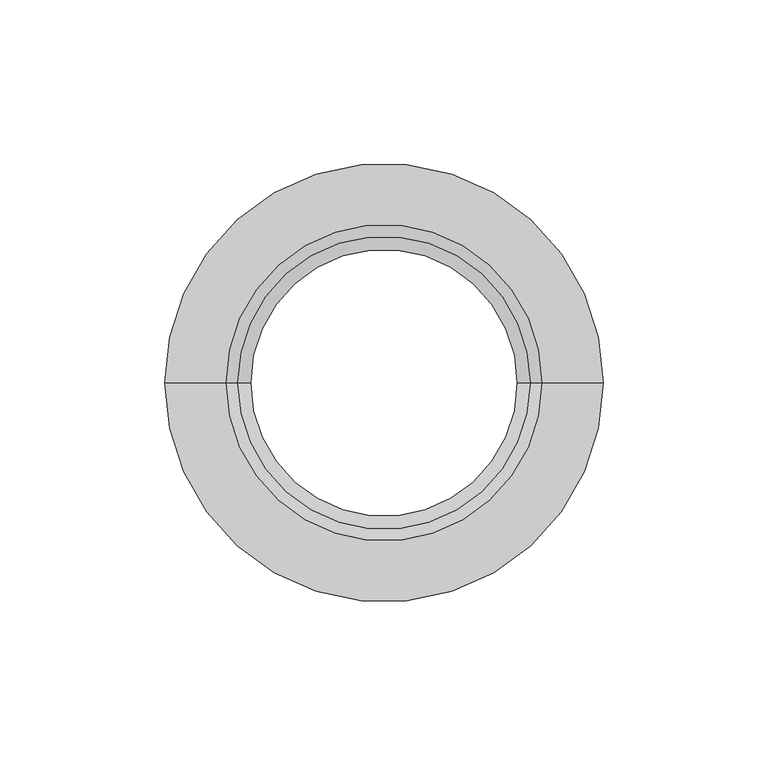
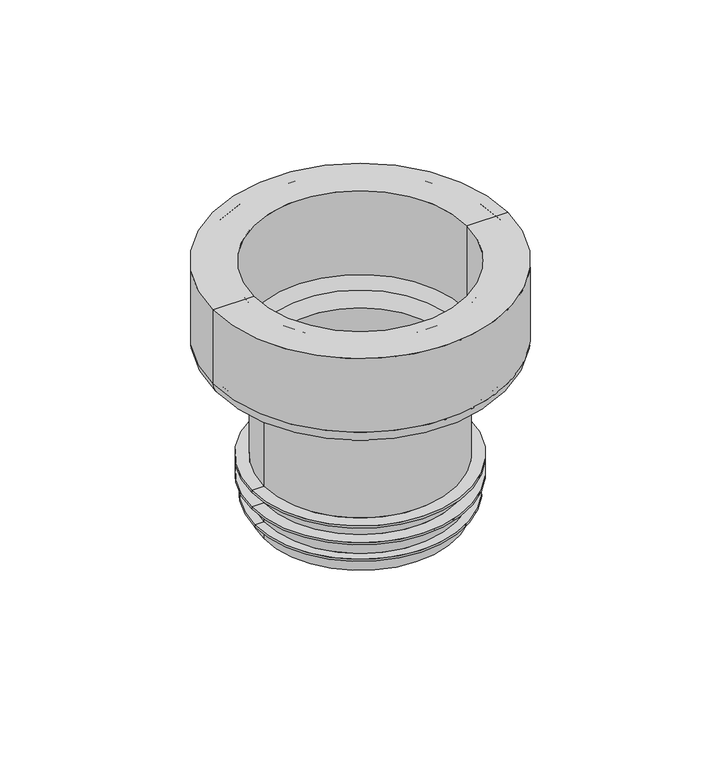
"""IFC4 building model written with IfcOpenShell, lengths in millimetres: sanitary terminal geometry, RSen_52_PIF_UN_closet connector no.3a w_wisa : closet connector_wisa_no 3a w white."""

from ifc_helpers import new_model, si_unit, point, frame, origin, origin_with_axes, place, context, project, spatial, polyline, circle_curve, ellipse_curve, trimmed, source, transform, mapped, element, save
from ifc_brep_helpers import plane_surface, cylinder_surface, revolved_surface, advanced_brep


def sanitary_terminal_4ff47196(model_context):
    return source(origin(), model_context, "Body", "AdvancedBrep", [
        advanced_brep(
        [(-47.5, 0.0, -110.0), (47.5, 0.0, -110.0), (43.5, 0.0, -110.0), (-43.5, 0.0, -110.0), (-47.5, 0.0, -109.0), (47.5, 0.0, -109.0), (-43.5, 0.0, -109.0), (43.5, 0.0, -109.0), (-43.5, 0.0, -101.0), (43.5, 0.0, -101.0), (-49.0, 0.0, -101.0), (49.0, 0.0, -101.0), (-49.0, 0.0, -100.0363869), (49.0, 0.0, -100.0363869), (-43.5, 0.0, -100.0363869), (43.5, 0.0, -100.0363869), (-43.5, 0.0, -93.0363869), (43.5, 0.0, -93.0363869), (-49.0, 0.0, -93.0363869), (49.0, 0.0, -93.0363869), (-49.0, 0.0, -92.0409026), (49.0, 0.0, -92.0409026), (-43.5, 0.0, -92.0409026), (43.5, 0.0, -92.0409026), (-43.5, 0.0, -51.3008302), (43.5, 0.0, -51.3008302), (-46.1319194, 0.0, -47.5420597), (46.1319194, 0.0, -47.5420597), (-61.894141, 0.0, -41.8050802), (61.894141, 0.0, -41.8050802), (-66.5, 0.0, -35.2272318), (66.5, 0.0, -35.2272318), (-66.5, 0.0, 0.0), (66.5, 0.0, 0.0), (-48.0, 0.0, 0.0), (48.0, 0.0, 0.0), (-48.0, 0.0, -40.0), (48.0, 0.0, -40.0), (-50.0, 0.0, -40.0), (50.0, 0.0, -40.0), (-50.0, 0.0, -3.5), (50.0, 0.0, -3.5), (-51.5, 0.0, -2.0), (51.5, 0.0, -2.0), (-62.0, 0.0, -2.0), (62.0, 0.0, -2.0), (-63.5, 0.0, -3.5), (63.5, 0.0, -3.5), (-63.5, 0.0, -34.5270243), (63.5, 0.0, -34.5270243), (-60.2101007, 0.0, -39.2254874), (60.2101007, 0.0, -39.2254874), (-44.4478791, 0.0, -44.9624669), (44.4478791, 0.0, -44.9624669), (-40.5, 0.0, -50.6006226), (40.5, 0.0, -50.6006226), (-40.5, 0.0, -112.3809797), (40.5, 0.0, -112.3809797), (-40.5, 0.0, -117.0), (40.5, 0.0, -117.0), (-43.5, 0.0, -117.0), (43.5, 0.0, -117.0)],
        [
            (0, 1, circle_curve(frame((0.0, 0.0, -110.0), z_axis=(0.0, 0.0, -1.0), x_axis=(1.0, 0.0, 0.0)), 47.5)),
            (1, 2),
            (2, 3, circle_curve(frame((0.0, 0.0, -110.0), z_axis=(0.0, 0.0, 1.0), x_axis=(1.0, 0.0, 0.0)), 43.5)),
            (3, 0),
            (1, 0, circle_curve(frame((0.0, 0.0, -110.0), z_axis=(0.0, 0.0, -1.0), x_axis=(1.0, 0.0, 0.0)), 47.5)),
            (3, 2, circle_curve(frame((0.0, 0.0, -110.0), z_axis=(0.0, 0.0, 1.0), x_axis=(1.0, 0.0, 0.0)), 43.5)),
            (4, 5, circle_curve(frame((0.0, 0.0, -109.0), z_axis=(0.0, 0.0, -1.0), x_axis=(1.0, 0.0, 0.0)), 47.5)),
            (5, 1),
            (0, 4),
            (5, 4, circle_curve(frame((0.0, 0.0, -109.0), z_axis=(0.0, 0.0, -1.0), x_axis=(1.0, 0.0, 0.0)), 47.5)),
            (6, 7, circle_curve(frame((0.0, 0.0, -109.0), z_axis=(0.0, 0.0, -1.0), x_axis=(1.0, 0.0, 0.0)), 43.5)),
            (7, 5),
            (4, 6),
            (7, 6, circle_curve(frame((0.0, 0.0, -109.0), z_axis=(0.0, 0.0, -1.0), x_axis=(1.0, 0.0, 0.0)), 43.5)),
            (8, 9, circle_curve(frame((0.0, 0.0, -101.0), z_axis=(0.0, 0.0, -1.0), x_axis=(1.0, 0.0, 0.0)), 43.5)),
            (9, 7),
            (6, 8),
            (9, 8, circle_curve(frame((0.0, 0.0, -101.0), z_axis=(0.0, 0.0, -1.0), x_axis=(1.0, 0.0, 0.0)), 43.5)),
            (10, 11, circle_curve(frame((0.0, 0.0, -101.0), z_axis=(0.0, 0.0, -1.0), x_axis=(1.0, 0.0, 0.0)), 49.0)),
            (11, 9),
            (8, 10),
            (11, 10, circle_curve(frame((0.0, 0.0, -101.0), z_axis=(0.0, 0.0, -1.0), x_axis=(1.0, 0.0, 0.0)), 49.0)),
            (12, 13, circle_curve(frame((0.0, 0.0, -100.0363869), z_axis=(0.0, 0.0, -1.0), x_axis=(1.0, 0.0, 0.0)), 49.0)),
            (13, 11),
            (10, 12),
            (13, 12, circle_curve(frame((0.0, 0.0, -100.0363869), z_axis=(0.0, 0.0, -1.0), x_axis=(1.0, 0.0, 0.0)), 49.0)),
            (14, 15, circle_curve(frame((0.0, 0.0, -100.0363869), z_axis=(0.0, 0.0, -1.0), x_axis=(1.0, 0.0, 0.0)), 43.5)),
            (15, 13),
            (12, 14),
            (15, 14, circle_curve(frame((0.0, 0.0, -100.0363869), z_axis=(0.0, 0.0, -1.0), x_axis=(1.0, 0.0, 0.0)), 43.5)),
            (16, 17, circle_curve(frame((0.0, 0.0, -93.0363869), z_axis=(0.0, 0.0, -1.0), x_axis=(1.0, 0.0, 0.0)), 43.5)),
            (17, 15),
            (14, 16),
            (17, 16, circle_curve(frame((0.0, 0.0, -93.0363869), z_axis=(0.0, 0.0, -1.0), x_axis=(1.0, 0.0, 0.0)), 43.5)),
            (18, 19, circle_curve(frame((0.0, 0.0, -93.0363869), z_axis=(0.0, 0.0, -1.0), x_axis=(1.0, 0.0, 0.0)), 49.0)),
            (19, 17),
            (16, 18),
            (19, 18, circle_curve(frame((0.0, 0.0, -93.0363869), z_axis=(0.0, 0.0, -1.0), x_axis=(1.0, 0.0, 0.0)), 49.0)),
            (20, 21, circle_curve(frame((0.0, 0.0, -92.0409026), z_axis=(0.0, 0.0, -1.0), x_axis=(1.0, 0.0, 0.0)), 49.0)),
            (21, 19),
            (18, 20),
            (21, 20, circle_curve(frame((0.0, 0.0, -92.0409026), z_axis=(0.0, 0.0, -1.0), x_axis=(1.0, 0.0, 0.0)), 49.0)),
            (22, 23, circle_curve(frame((0.0, 0.0, -92.0409026), z_axis=(0.0, 0.0, -1.0), x_axis=(1.0, 0.0, 0.0)), 43.5)),
            (23, 21),
            (20, 22),
            (23, 22, circle_curve(frame((0.0, 0.0, -92.0409026), z_axis=(0.0, 0.0, -1.0), x_axis=(1.0, 0.0, 0.0)), 43.5)),
            (24, 25, circle_curve(frame((0.0, 0.0, -51.3008302), z_axis=(0.0, 0.0, -1.0), x_axis=(1.0, 0.0, 0.0)), 43.5)),
            (25, 23),
            (22, 24),
            (25, 24, circle_curve(frame((0.0, 0.0, -51.3008302), z_axis=(0.0, 0.0, -1.0), x_axis=(1.0, 0.0, 0.0)), 43.5)),
            (26, 27, circle_curve(frame((0.0, 0.0, -47.5420597), z_axis=(0.0, 0.0, -1.0), x_axis=(1.0, 0.0, 0.0)), 46.1319194)),
            (27, 25, circle_curve(frame((47.5, 0.0, -51.3008302), z_axis=(0.0, -1.0, 0.0), x_axis=(1.0, 0.0, 0.0)), 4.0)),
            (24, 26, circle_curve(frame((-47.5, 0.0, -51.3008302), z_axis=(0.0, -1.0, 0.0), x_axis=(-1.0, 0.0, 0.0)), 4.0)),
            (27, 26, circle_curve(frame((0.0, 0.0, -47.5420597), z_axis=(0.0, 0.0, -1.0), x_axis=(1.0, 0.0, 0.0)), 46.1319194)),
            (28, 29, circle_curve(frame((0.0, 0.0, -41.8050802), z_axis=(0.0, 0.0, -1.0), x_axis=(1.0, 0.0, 0.0)), 61.894141)),
            (29, 27),
            (26, 28),
            (29, 28, circle_curve(frame((0.0, 0.0, -41.8050802), z_axis=(0.0, 0.0, -1.0), x_axis=(1.0, 0.0, 0.0)), 61.894141)),
            (30, 31, circle_curve(frame((0.0, 0.0, -35.2272318), z_axis=(0.0, 0.0, -1.0), x_axis=(1.0, 0.0, 0.0)), 66.5)),
            (31, 29, circle_curve(frame((59.5, 0.0, -35.2272318), z_axis=(0.0, 1.0, 0.0), x_axis=(1.0, 0.0, 0.0)), 7.0)),
            (28, 30, circle_curve(frame((-59.5, 0.0, -35.2272318), z_axis=(0.0, 1.0, 0.0), x_axis=(-1.0, 0.0, 0.0)), 7.0)),
            (31, 30, circle_curve(frame((0.0, 0.0, -35.2272318), z_axis=(0.0, 0.0, -1.0), x_axis=(1.0, 0.0, 0.0)), 66.5)),
            (32, 33, circle_curve(frame((0.0, 0.0, 0.0), z_axis=(0.0, 0.0, -1.0), x_axis=(1.0, 0.0, 0.0)), 66.5)),
            (33, 31),
            (30, 32),
            (33, 32, circle_curve(frame((0.0, 0.0, 0.0), z_axis=(0.0, 0.0, -1.0), x_axis=(1.0, 0.0, 0.0)), 66.5)),
            (34, 35, circle_curve(frame((0.0, 0.0, 0.0), z_axis=(0.0, 0.0, -1.0), x_axis=(1.0, 0.0, 0.0)), 48.0)),
            (35, 33),
            (32, 34),
            (35, 34, circle_curve(frame((0.0, 0.0, 0.0), z_axis=(0.0, 0.0, -1.0), x_axis=(1.0, 0.0, 0.0)), 48.0)),
            (36, 37, circle_curve(frame((0.0, 0.0, -40.0), z_axis=(0.0, 0.0, -1.0), x_axis=(1.0, 0.0, 0.0)), 48.0)),
            (37, 35),
            (34, 36),
            (37, 36, circle_curve(frame((0.0, 0.0, -40.0), z_axis=(0.0, 0.0, -1.0), x_axis=(1.0, 0.0, 0.0)), 48.0)),
            (38, 39, circle_curve(frame((0.0, 0.0, -40.0), z_axis=(0.0, 0.0, -1.0), x_axis=(1.0, 0.0, 0.0)), 50.0)),
            (39, 37),
            (36, 38),
            (39, 38, circle_curve(frame((0.0, 0.0, -40.0), z_axis=(0.0, 0.0, -1.0), x_axis=(1.0, 0.0, 0.0)), 50.0)),
            (40, 41, circle_curve(frame((0.0, 0.0, -3.5), z_axis=(0.0, 0.0, -1.0), x_axis=(1.0, 0.0, 0.0)), 50.0)),
            (41, 39),
            (38, 40),
            (41, 40, circle_curve(frame((0.0, 0.0, -3.5), z_axis=(0.0, 0.0, -1.0), x_axis=(1.0, 0.0, 0.0)), 50.0)),
            (42, 43, circle_curve(frame((0.0, 0.0, -2.0), z_axis=(0.0, 0.0, -1.0), x_axis=(1.0, 0.0, 0.0)), 51.5)),
            (43, 41, circle_curve(frame((51.5, 0.0, -3.5), z_axis=(0.0, -1.0, 0.0), x_axis=(1.0, 0.0, 0.0)), 1.5)),
            (40, 42, circle_curve(frame((-51.5, 0.0, -3.5), z_axis=(0.0, -1.0, 0.0), x_axis=(-1.0, 0.0, 0.0)), 1.5)),
            (43, 42, circle_curve(frame((0.0, 0.0, -2.0), z_axis=(0.0, 0.0, -1.0), x_axis=(1.0, 0.0, 0.0)), 51.5)),
            (44, 45, circle_curve(frame((0.0, 0.0, -2.0), z_axis=(0.0, 0.0, -1.0), x_axis=(1.0, 0.0, 0.0)), 62.0)),
            (45, 43),
            (42, 44),
            (45, 44, circle_curve(frame((0.0, 0.0, -2.0), z_axis=(0.0, 0.0, -1.0), x_axis=(1.0, 0.0, 0.0)), 62.0)),
            (46, 47, circle_curve(frame((0.0, 0.0, -3.5), z_axis=(0.0, 0.0, -1.0), x_axis=(1.0, 0.0, 0.0)), 63.5)),
            (47, 45, circle_curve(frame((62.0, 0.0, -3.5), z_axis=(0.0, -1.0, 0.0), x_axis=(1.0, 0.0, 0.0)), 1.5)),
            (44, 46, circle_curve(frame((-62.0, 0.0, -3.5), z_axis=(0.0, -1.0, 0.0), x_axis=(-1.0, 0.0, 0.0)), 1.5)),
            (47, 46, circle_curve(frame((0.0, 0.0, -3.5), z_axis=(0.0, 0.0, -1.0), x_axis=(1.0, 0.0, 0.0)), 63.5)),
            (48, 49, circle_curve(frame((0.0, 0.0, -34.5270243), z_axis=(0.0, 0.0, -1.0), x_axis=(1.0, 0.0, 0.0)), 63.5)),
            (49, 47),
            (46, 48),
            (49, 48, circle_curve(frame((0.0, 0.0, -34.5270243), z_axis=(0.0, 0.0, -1.0), x_axis=(1.0, 0.0, 0.0)), 63.5)),
            (50, 51, circle_curve(frame((0.0, 0.0, -39.2254874), z_axis=(0.0, 0.0, -1.0), x_axis=(1.0, 0.0, 0.0)), 60.2101007)),
            (51, 49, circle_curve(frame((58.5, 0.0, -34.5270243), z_axis=(0.0, -1.0, 0.0), x_axis=(1.0, 0.0, 0.0)), 5.0)),
            (48, 50, circle_curve(frame((-58.5, 0.0, -34.5270243), z_axis=(0.0, -1.0, 0.0), x_axis=(-1.0, 0.0, 0.0)), 5.0)),
            (51, 50, circle_curve(frame((0.0, 0.0, -39.2254874), z_axis=(0.0, 0.0, -1.0), x_axis=(1.0, 0.0, 0.0)), 60.2101007)),
            (52, 53, circle_curve(frame((0.0, 0.0, -44.9624669), z_axis=(0.0, 0.0, -1.0), x_axis=(1.0, 0.0, 0.0)), 44.4478791)),
            (53, 51),
            (50, 52),
            (53, 52, circle_curve(frame((0.0, 0.0, -44.9624669), z_axis=(0.0, 0.0, -1.0), x_axis=(1.0, 0.0, 0.0)), 44.4478791)),
            (54, 55, circle_curve(frame((0.0, 0.0, -50.6006226), z_axis=(0.0, 0.0, -1.0), x_axis=(1.0, 0.0, 0.0)), 40.5)),
            (55, 53, circle_curve(frame((46.5, 0.0, -50.6006226), z_axis=(0.0, 1.0, 0.0), x_axis=(1.0, 0.0, 0.0)), 6.0)),
            (52, 54, circle_curve(frame((-46.5, 0.0, -50.6006226), z_axis=(0.0, 1.0, 0.0), x_axis=(-1.0, 0.0, 0.0)), 6.0)),
            (55, 54, circle_curve(frame((0.0, 0.0, -50.6006226), z_axis=(0.0, 0.0, -1.0), x_axis=(1.0, 0.0, 0.0)), 40.5)),
            (56, 57, circle_curve(frame((0.0, 0.0, -112.3809797), z_axis=(0.0, 0.0, -1.0), x_axis=(1.0, 0.0, 0.0)), 40.5)),
            (57, 55),
            (54, 56),
            (57, 56, circle_curve(frame((0.0, 0.0, -112.3809797), z_axis=(0.0, 0.0, -1.0), x_axis=(1.0, 0.0, 0.0)), 40.5)),
            (58, 59, circle_curve(frame((0.0, 0.0, -117.0), z_axis=(0.0, 0.0, -1.0), x_axis=(1.0, 0.0, 0.0)), 40.5)),
            (59, 57),
            (56, 58),
            (59, 58, circle_curve(frame((0.0, 0.0, -117.0), z_axis=(0.0, 0.0, -1.0), x_axis=(1.0, 0.0, 0.0)), 40.5)),
            (60, 61, circle_curve(frame((0.0, 0.0, -117.0), z_axis=(0.0, 0.0, -1.0), x_axis=(1.0, 0.0, 0.0)), 43.5)),
            (61, 59),
            (58, 60),
            (61, 60, circle_curve(frame((0.0, 0.0, -117.0), z_axis=(0.0, 0.0, -1.0), x_axis=(1.0, 0.0, 0.0)), 43.5)),
            (2, 61),
            (60, 3),
        ],
        [
            plane_surface(frame((0.0, 0.0, -110.0), z_axis=(0.0, 0.0, -1.0), x_axis=(1.0, 0.0, 0.0))),
            cylinder_surface(frame((0.0, 0.0, 150.0), z_axis=(0.0, 0.0, 1.0), x_axis=(1.0, 0.0, 0.0)), 47.5),
            plane_surface(frame((0.0, 0.0, -109.0), z_axis=(0.0, 0.0, 1.0), x_axis=(1.0, 0.0, 0.0))),
            cylinder_surface(frame((0.0, 0.0, 150.0), z_axis=(0.0, 0.0, 1.0), x_axis=(1.0, 0.0, 0.0)), 43.5),
            plane_surface(frame((0.0, 0.0, -101.0), z_axis=(0.0, 0.0, -1.0), x_axis=(1.0, 0.0, 0.0))),
            cylinder_surface(frame((0.0, 0.0, 150.0), z_axis=(0.0, 0.0, 1.0), x_axis=(1.0, 0.0, 0.0)), 49.0),
            plane_surface(frame((0.0, 0.0, -100.0363869), z_axis=(0.0, 0.0, 1.0), x_axis=(1.0, 0.0, 0.0))),
            plane_surface(frame((0.0, 0.0, -93.0363869), z_axis=(0.0, 0.0, -1.0), x_axis=(1.0, 0.0, 0.0))),
            plane_surface(frame((0.0, 0.0, -92.0409026), z_axis=(0.0, 0.0, 1.0), x_axis=(1.0, 0.0, 0.0))),
            revolved_surface(trimmed(ellipse_curve(frame((47.5, 0.0, -51.3008302), z_axis=(0.0, 1.0, 0.0), x_axis=(1.0, 0.0, 0.0)), 4.0, 4.0), [point((43.5, 0.0, -51.3008302))], [point((46.1319194, 0.0, -47.5420597))], True, "CARTESIAN"), (0.0, 0.0, 150.0), (0.0, 0.0, 1.0)),
            revolved_surface(polyline([(46.1319194, 0.0, -47.5420597), (61.894141, 0.0, -41.8050802)]), (0.0, 0.0, 150.0), (0.0, 0.0, 1.0)),
            revolved_surface(trimmed(ellipse_curve(frame((59.5, 0.0, -35.2272318), z_axis=(0.0, -1.0, 0.0), x_axis=(1.0, 0.0, 0.0)), 7.0, 7.0), [point((61.894141, 0.0, -41.8050802))], [point((66.5, 0.0, -35.2272318))], True, "CARTESIAN"), (0.0, 0.0, 150.0), (0.0, 0.0, 1.0)),
            cylinder_surface(frame((0.0, 0.0, 150.0), z_axis=(0.0, 0.0, 1.0), x_axis=(1.0, 0.0, 0.0)), 66.5),
            plane_surface(origin_with_axes()),
            revolved_surface(polyline([(48.0, 0.0, 0.0), (48.0, 0.0, -40.0)]), (0.0, 0.0, 150.0), (0.0, 0.0, 1.0)),
            plane_surface(frame((0.0, 0.0, -40.0), z_axis=(0.0, 0.0, -1.0), x_axis=(1.0, 0.0, 0.0))),
            cylinder_surface(frame((0.0, 0.0, 150.0), z_axis=(0.0, 0.0, 1.0), x_axis=(1.0, 0.0, 0.0)), 50.0),
            revolved_surface(trimmed(ellipse_curve(frame((51.5, 0.0, -3.5), z_axis=(0.0, 1.0, 0.0), x_axis=(1.0, 0.0, 0.0)), 1.5, 1.5), [point((50.0, 0.0, -3.5))], [point((51.5, 0.0, -2.0))], True, "CARTESIAN"), (0.0, 0.0, 150.0), (0.0, 0.0, 1.0)),
            plane_surface(frame((0.0, 0.0, -2.0), z_axis=(0.0, 0.0, -1.0), x_axis=(1.0, 0.0, 0.0))),
            revolved_surface(trimmed(ellipse_curve(frame((62.0, 0.0, -3.5), z_axis=(0.0, 1.0, 0.0), x_axis=(1.0, 0.0, 0.0)), 1.5, 1.5), [point((62.0, 0.0, -2.0))], [point((63.5, 0.0, -3.5))], True, "CARTESIAN"), (0.0, 0.0, 150.0), (0.0, 0.0, 1.0)),
            revolved_surface(polyline([(63.5, 0.0, -3.5), (63.5, 0.0, -34.527024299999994)]), (0.0, 0.0, 150.0), (0.0, 0.0, 1.0)),
            revolved_surface(trimmed(ellipse_curve(frame((58.5, 0.0, -34.5270243), z_axis=(0.0, 1.0, 0.0), x_axis=(1.0, 0.0, 0.0)), 5.0, 5.0), [point((63.5, 0.0, -34.5270243))], [point((60.2101007, 0.0, -39.2254874))], True, "CARTESIAN"), (0.0, 0.0, 150.0), (0.0, 0.0, 1.0)),
            revolved_surface(polyline([(60.2101007, 0.0, -39.2254874), (44.4478791, 0.0, -44.9624669)]), (0.0, 0.0, 150.0), (0.0, 0.0, 1.0)),
            revolved_surface(trimmed(ellipse_curve(frame((46.5, 0.0, -50.6006226), z_axis=(0.0, -1.0, 0.0), x_axis=(1.0, 0.0, 0.0)), 6.0, 6.0), [point((44.4478791, 0.0, -44.9624669))], [point((40.5, 0.0, -50.6006226))], True, "CARTESIAN"), (0.0, 0.0, 150.0), (0.0, 0.0, 1.0)),
            revolved_surface(polyline([(40.5, 0.0, -50.60062260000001), (40.5, 0.0, -112.38097970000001)]), (0.0, 0.0, 150.0), (0.0, 0.0, 1.0)),
            revolved_surface(polyline([(40.5, 0.0, -112.38097970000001), (40.5, 0.0, -117.0)]), (0.0, 0.0, 150.0), (0.0, 0.0, 1.0)),
            plane_surface(frame((0.0, 0.0, -117.0), z_axis=(0.0, 0.0, -1.0), x_axis=(1.0, 0.0, 0.0))),
        ],
        [
            (0, [[1, 2, 3, 4]]),
            (0, [[5, -4, 6, -2]]),
            (1, [[7, 8, -1, 9]]),
            (1, [[10, -9, -5, -8]]),
            (2, [[11, 12, -7, 13]]),
            (2, [[14, -13, -10, -12]]),
            (3, [[15, 16, -11, 17]]),
            (3, [[18, -17, -14, -16]]),
            (4, [[19, 20, -15, 21]]),
            (4, [[22, -21, -18, -20]]),
            (5, [[23, 24, -19, 25]]),
            (5, [[26, -25, -22, -24]]),
            (6, [[27, 28, -23, 29]]),
            (6, [[30, -29, -26, -28]]),
            (3, [[31, 32, -27, 33]]),
            (3, [[34, -33, -30, -32]]),
            (7, [[35, 36, -31, 37]]),
            (7, [[38, -37, -34, -36]]),
            (5, [[39, 40, -35, 41]]),
            (5, [[42, -41, -38, -40]]),
            (8, [[43, 44, -39, 45]]),
            (8, [[46, -45, -42, -44]]),
            (3, [[47, 48, -43, 49]]),
            (3, [[50, -49, -46, -48]]),
            (9, [[51, 52, -47, 53]]),
            (9, [[54, -53, -50, -52]]),
            (10, [[55, 56, -51, 57]]),
            (10, [[58, -57, -54, -56]]),
            (11, [[59, 60, -55, 61]]),
            (11, [[62, -61, -58, -60]]),
            (12, [[63, 64, -59, 65]]),
            (12, [[66, -65, -62, -64]]),
            (13, [[67, 68, -63, 69]]),
            (13, [[70, -69, -66, -68]]),
            (14, [[71, 72, -67, 73]]),
            (14, [[74, -73, -70, -72]]),
            (15, [[75, 76, -71, 77]]),
            (15, [[78, -77, -74, -76]]),
            (16, [[79, 80, -75, 81]]),
            (16, [[82, -81, -78, -80]]),
            (17, [[83, 84, -79, 85]]),
            (17, [[86, -85, -82, -84]]),
            (18, [[87, 88, -83, 89]]),
            (18, [[90, -89, -86, -88]]),
            (19, [[91, 92, -87, 93]]),
            (19, [[94, -93, -90, -92]]),
            (20, [[95, 96, -91, 97]]),
            (20, [[98, -97, -94, -96]]),
            (21, [[99, 100, -95, 101]]),
            (21, [[102, -101, -98, -100]]),
            (22, [[103, 104, -99, 105]]),
            (22, [[106, -105, -102, -104]]),
            (23, [[107, 108, -103, 109]]),
            (23, [[110, -109, -106, -108]]),
            (24, [[111, 112, -107, 113]]),
            (24, [[114, -113, -110, -112]]),
            (25, [[115, 116, -111, 117]]),
            (25, [[118, -117, -114, -116]]),
            (26, [[119, 120, -115, 121]]),
            (26, [[122, -121, -118, -120]]),
            (3, [[-3, 123, -119, 124]]),
            (3, [[-6, -124, -122, -123]]),
        ],
    ),
    ])


if __name__ == "__main__":
    model = new_model("IFC4")
    model_context = context("Model", 3, world=origin())
    ifc_project = project(units=[si_unit("LENGTHUNIT", "METRE", prefix="MILLI")], contexts=[model_context])
    site = spatial("IfcSite", under=ifc_project)
    building = spatial("IfcBuilding", under=site)
    placement = place(None, origin())
    sanitary_terminal_shape = sanitary_terminal_4ff47196(model_context)
    element("IfcSanitaryTerminal", 1, ObjectType="RSen_52_PIF_UN_closet connector no.3a w_wisa : closet connector_wisa_no 3a w white", at=placement, inside=building, context=model_context, shape_type="MappedRepresentation", body=[
        mapped(sanitary_terminal_shape, transform((0.0, 0.0, 0.0), x_axis=(1.0, 0.0, 0.0), y_axis=(0.0, 1.0, 0.0), z_axis=(0.0, 0.0, 1.0))),
    ])
    save(model, "model.ifc")
